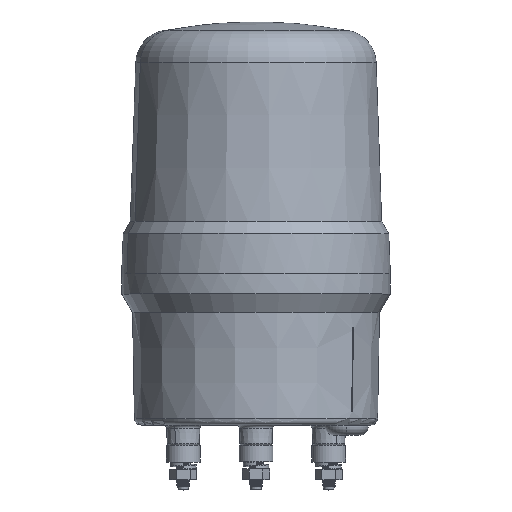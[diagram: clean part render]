
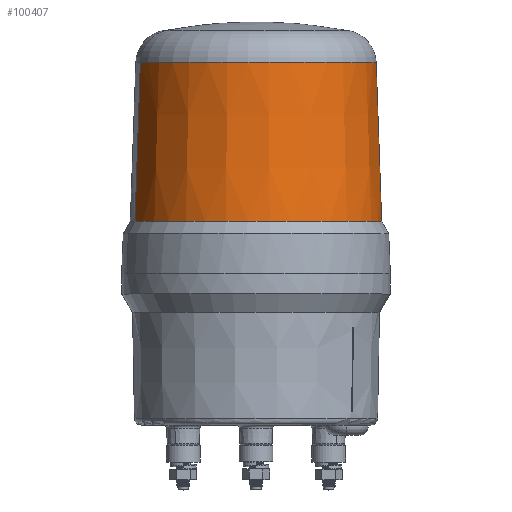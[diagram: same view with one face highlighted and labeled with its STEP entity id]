
A CAD part, top view. The second image highlights one B-rep face of the part: STEP entity #100407.
In plain terms, the highlighted conical face has half-angle 2 degrees and reference radius 36.673 mm.
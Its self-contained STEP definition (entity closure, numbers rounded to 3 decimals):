
#35021=CARTESIAN_POINT('',(0.,15.604,0.));
#35022=DIRECTION('',(0.,1.,0.));
#35023=DIRECTION('',(-0.96,0.,0.279));
#35024=AXIS2_PLACEMENT_3D('',#35021,#35022,#35023);
#35035=DIRECTION('',(-0.034,-0.999,0.01));
#35036=VECTOR('',#35035,47.366);
#35037=CARTESIAN_POINT('',(-34.426,62.941,
9.992));
#35038=LINE('',#35037,#35036);
#35039=DIRECTION('',(-0.034,0.999,0.01));
#35040=VECTOR('',#35039,47.366);
#35041=CARTESIAN_POINT('',(36.014,15.604,
-10.453));
#35042=LINE('',#35041,#35040);
#35053=CARTESIAN_POINT('',(0.,62.941,
0.));
#35054=DIRECTION('',(0.,-1.,0.));
#35055=DIRECTION('',(0.96,0.,-0.279));
#35056=AXIS2_PLACEMENT_3D('',#35053,#35054,#35055);
#53371=CARTESIAN_POINT('',(-36.014,15.604,
10.453));
#53372=VERTEX_POINT('',#53371);
#53373=CARTESIAN_POINT('',(36.014,15.604,
-10.453));
#53374=VERTEX_POINT('',#53373);
#53375=CARTESIAN_POINT('',(-34.426,62.941,
9.992));
#53376=VERTEX_POINT('',#53375);
#53377=CARTESIAN_POINT('',(34.426,62.941,
-9.992));
#53378=VERTEX_POINT('',#53377);
#100395=CARTESIAN_POINT('',(0.,39.273,0.));
#100396=DIRECTION('',(0.,-1.,0.));
#100397=DIRECTION('',(0.96,0.,-0.279));
#100398=AXIS2_PLACEMENT_3D('',#100395,#100396,#100397);
#100399=CONICAL_SURFACE('',#100398,36.673,2.);
#100400=ORIENTED_EDGE('',*,*,#100385,.F.);
#100402=ORIENTED_EDGE('',*,*,#100401,.F.);
#100403=ORIENTED_EDGE('',*,*,#100388,.F.);
#100404=ORIENTED_EDGE('',*,*,#100359,.F.);
#100405=EDGE_LOOP('',(#100400,#100402,#100403,#100404));
#100406=FACE_OUTER_BOUND('',#100405,.F.);
#100407=ADVANCED_FACE('',(#100406),#100399,.T.);
#35025=CIRCLE('',#35024,37.5);
#35057=CIRCLE('',#35056,35.847);
#100359=EDGE_CURVE('',#53372,#53374,#35025,.T.);
#100385=EDGE_CURVE('',#53376,#53372,#35038,.T.);
#100388=EDGE_CURVE('',#53374,#53378,#35042,.T.);
#100401=EDGE_CURVE('',#53378,#53376,#35057,.T.);
